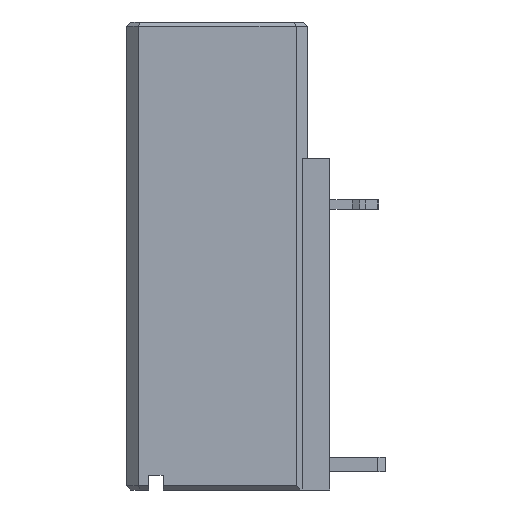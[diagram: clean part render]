
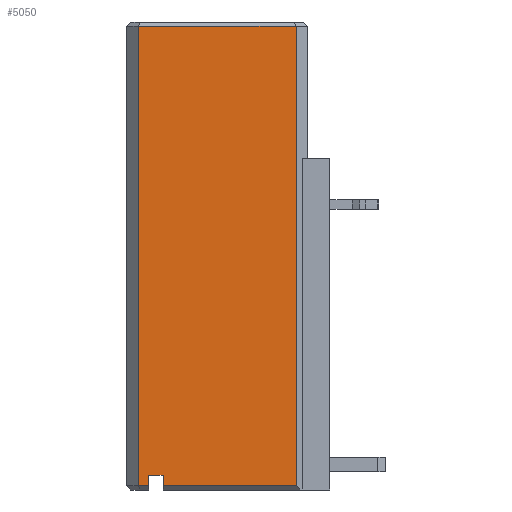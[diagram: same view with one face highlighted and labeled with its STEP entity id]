
A CAD part, left-side view. The second image highlights one B-rep face of the part: STEP entity #5050.
In plain terms, the highlighted planar face has unit normal (-1, 0, 0).
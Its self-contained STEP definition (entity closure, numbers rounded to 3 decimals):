
#168=DIRECTION('',(0.,-1.,0.));
#169=VECTOR('',#168,10.8);
#170=CARTESIAN_POINT('',(-35.,5.4,-0.3));
#171=LINE('',#170,#169);
#172=DIRECTION('',(0.,1.,0.));
#173=VECTOR('',#172,9.1);
#174=CARTESIAN_POINT('',(-35.,-5.4,-31.7));
#175=LINE('',#174,#173);
#176=DIRECTION('',(0.,0.,1.));
#177=VECTOR('',#176,0.7);
#178=CARTESIAN_POINT('',(-35.,3.7,-31.7));
#179=LINE('',#178,#177);
#180=DIRECTION('',(0.,-1.,0.));
#181=VECTOR('',#180,1.);
#182=CARTESIAN_POINT('',(-35.,4.7,-31.));
#183=LINE('',#182,#181);
#184=DIRECTION('',(0.,0.,1.));
#185=VECTOR('',#184,0.7);
#186=CARTESIAN_POINT('',(-35.,4.7,-31.7));
#187=LINE('',#186,#185);
#188=DIRECTION('',(0.,1.,0.));
#189=VECTOR('',#188,0.7);
#190=CARTESIAN_POINT('',(-35.,4.7,-31.7));
#191=LINE('',#190,#189);
#192=DIRECTION('',(0.,0.,-1.));
#193=VECTOR('',#192,31.4);
#194=CARTESIAN_POINT('',(-35.,5.4,-0.3));
#195=LINE('',#194,#193);
#220=DIRECTION('',(0.,0.,-1.));
#221=VECTOR('',#220,31.4);
#222=CARTESIAN_POINT('',(-35.,-5.4,-0.3));
#223=LINE('',#222,#221);
#3782=CARTESIAN_POINT('',(-35.,-5.4,-0.3));
#3783=VERTEX_POINT('',#3782);
#3786=CARTESIAN_POINT('',(-35.,5.4,-0.3));
#3787=VERTEX_POINT('',#3786);
#3798=CARTESIAN_POINT('',(-35.,4.7,-31.7));
#3799=CARTESIAN_POINT('',(-35.,5.4,-31.7));
#3800=VERTEX_POINT('',#3798);
#3801=VERTEX_POINT('',#3799);
#3838=CARTESIAN_POINT('',(-35.,-5.4,-31.7));
#3839=VERTEX_POINT('',#3838);
#4206=CARTESIAN_POINT('',(-35.,4.7,-31.));
#4207=CARTESIAN_POINT('',(-35.,3.7,-31.));
#4208=VERTEX_POINT('',#4206);
#4209=VERTEX_POINT('',#4207);
#4257=CARTESIAN_POINT('',(-35.,3.7,-31.7));
#4259=VERTEX_POINT('',#4257);
#5028=CARTESIAN_POINT('',(-35.,5.4,0.));
#5029=DIRECTION('',(-1.,0.,0.));
#5030=DIRECTION('',(0.,-1.,0.));
#5031=AXIS2_PLACEMENT_3D('',#5028,#5029,#5030);
#5032=PLANE('',#5031);
#5034=ORIENTED_EDGE('',*,*,#5033,.T.);
#5036=ORIENTED_EDGE('',*,*,#5035,.T.);
#5038=ORIENTED_EDGE('',*,*,#5037,.T.);
#5040=ORIENTED_EDGE('',*,*,#5039,.T.);
#5042=ORIENTED_EDGE('',*,*,#5041,.F.);
#5044=ORIENTED_EDGE('',*,*,#5043,.F.);
#5046=ORIENTED_EDGE('',*,*,#5045,.T.);
#5047=ORIENTED_EDGE('',*,*,#5020,.F.);
#5048=EDGE_LOOP('',(#5034,#5036,#5038,#5040,#5042,#5044,#5046,#5047));
#5049=FACE_OUTER_BOUND('',#5048,.F.);
#5050=ADVANCED_FACE('',(#5049),#5032,.T.);
#5020=EDGE_CURVE('',#3787,#3801,#195,.T.);
#5033=EDGE_CURVE('',#3787,#3783,#171,.T.);
#5035=EDGE_CURVE('',#3783,#3839,#223,.T.);
#5037=EDGE_CURVE('',#3839,#4259,#175,.T.);
#5039=EDGE_CURVE('',#4259,#4209,#179,.T.);
#5041=EDGE_CURVE('',#4208,#4209,#183,.T.);
#5043=EDGE_CURVE('',#3800,#4208,#187,.T.);
#5045=EDGE_CURVE('',#3800,#3801,#191,.T.);
